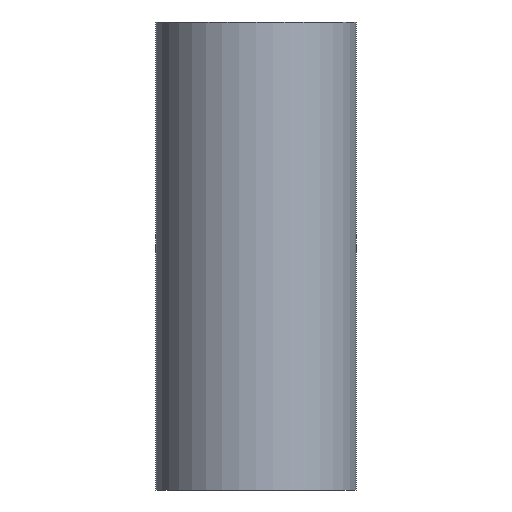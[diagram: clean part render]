
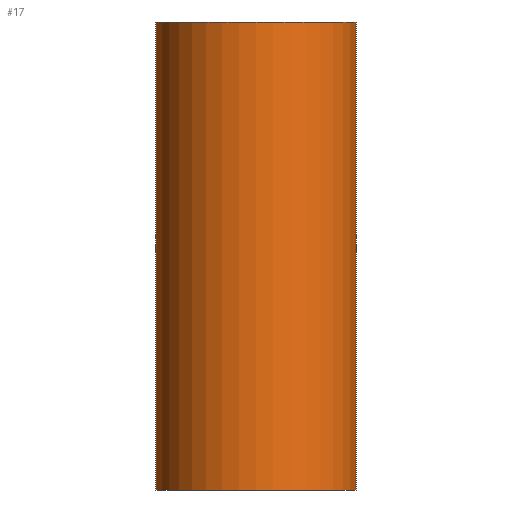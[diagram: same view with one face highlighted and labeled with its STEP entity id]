
A CAD part, front view. The second image highlights one B-rep face of the part: STEP entity #17.
In plain terms, the highlighted cylindrical face has radius 1.5 mm (diameter 3 mm), a full revolution.
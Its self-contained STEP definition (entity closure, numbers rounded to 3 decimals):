
#17 = ADVANCED_FACE('',(#18),#31,.T.);
#18 = FACE_BOUND('',#19,.T.);
#19 = EDGE_LOOP('',(#20,#54,#77,#104));
#20 = ORIENTED_EDGE('',*,*,#21,.F.);
#21 = EDGE_CURVE('',#22,#22,#24,.T.);
#22 = VERTEX_POINT('',#23);
#23 = CARTESIAN_POINT('',(-16.714,9.65,7.));
#24 = SURFACE_CURVE('',#25,(#30,#42),.PCURVE_S1.);
#25 = CIRCLE('',#26,1.5);
#26 = AXIS2_PLACEMENT_3D('',#27,#28,#29);
#27 = CARTESIAN_POINT('',(-15.415,8.9,7.));
#28 = DIRECTION('',(0.,0.,1.));
#29 = DIRECTION('',(-0.866,0.5,0.));
#30 = PCURVE('',#31,#36);
#31 = CYLINDRICAL_SURFACE('',#32,1.5);
#32 = AXIS2_PLACEMENT_3D('',#33,#34,#35);
#33 = CARTESIAN_POINT('',(-15.415,8.9,0.));
#34 = DIRECTION('',(0.,0.,1.));
#35 = DIRECTION('',(-0.866,0.5,0.));
#36 = DEFINITIONAL_REPRESENTATION('',(#37),#41);
#37 = LINE('',#38,#39);
#38 = CARTESIAN_POINT('',(0.,7.));
#39 = VECTOR('',#40,1.);
#40 = DIRECTION('',(1.,0.));
#41 = ( GEOMETRIC_REPRESENTATION_CONTEXT(2) 
PARAMETRIC_REPRESENTATION_CONTEXT() REPRESENTATION_CONTEXT('2D SPACE',''
  ) );
#42 = PCURVE('',#43,#48);
#43 = PLANE('',#44);
#44 = AXIS2_PLACEMENT_3D('',#45,#46,#47);
#45 = CARTESIAN_POINT('',(-15.415,8.9,7.));
#46 = DIRECTION('',(0.,0.,1.));
#47 = DIRECTION('',(-0.866,0.5,0.));
#48 = DEFINITIONAL_REPRESENTATION('',(#49),#53);
#49 = CIRCLE('',#50,1.5);
#50 = AXIS2_PLACEMENT_2D('',#51,#52);
#51 = CARTESIAN_POINT('',(0.,0.));
#52 = DIRECTION('',(1.,0.));
#53 = ( GEOMETRIC_REPRESENTATION_CONTEXT(2) 
PARAMETRIC_REPRESENTATION_CONTEXT() REPRESENTATION_CONTEXT('2D SPACE',''
  ) );
#54 = ORIENTED_EDGE('',*,*,#55,.F.);
#55 = EDGE_CURVE('',#56,#22,#58,.T.);
#56 = VERTEX_POINT('',#57);
#57 = CARTESIAN_POINT('',(-16.714,9.65,0.));
#58 = SEAM_CURVE('',#59,(#63,#70),.PCURVE_S1.);
#59 = LINE('',#60,#61);
#60 = CARTESIAN_POINT('',(-16.714,9.65,0.));
#61 = VECTOR('',#62,1.);
#62 = DIRECTION('',(0.,0.,1.));
#63 = PCURVE('',#31,#64);
#64 = DEFINITIONAL_REPRESENTATION('',(#65),#69);
#65 = LINE('',#66,#67);
#66 = CARTESIAN_POINT('',(6.283,-0.));
#67 = VECTOR('',#68,1.);
#68 = DIRECTION('',(0.,1.));
#69 = ( GEOMETRIC_REPRESENTATION_CONTEXT(2) 
PARAMETRIC_REPRESENTATION_CONTEXT() REPRESENTATION_CONTEXT('2D SPACE',''
  ) );
#70 = PCURVE('',#31,#71);
#71 = DEFINITIONAL_REPRESENTATION('',(#72),#76);
#72 = LINE('',#73,#74);
#73 = CARTESIAN_POINT('',(0.,-0.));
#74 = VECTOR('',#75,1.);
#75 = DIRECTION('',(0.,1.));
#76 = ( GEOMETRIC_REPRESENTATION_CONTEXT(2) 
PARAMETRIC_REPRESENTATION_CONTEXT() REPRESENTATION_CONTEXT('2D SPACE',''
  ) );
#77 = ORIENTED_EDGE('',*,*,#78,.T.);
#78 = EDGE_CURVE('',#56,#56,#79,.T.);
#79 = SURFACE_CURVE('',#80,(#85,#92),.PCURVE_S1.);
#80 = CIRCLE('',#81,1.5);
#81 = AXIS2_PLACEMENT_3D('',#82,#83,#84);
#82 = CARTESIAN_POINT('',(-15.415,8.9,0.));
#83 = DIRECTION('',(0.,0.,1.));
#84 = DIRECTION('',(-0.866,0.5,0.));
#85 = PCURVE('',#31,#86);
#86 = DEFINITIONAL_REPRESENTATION('',(#87),#91);
#87 = LINE('',#88,#89);
#88 = CARTESIAN_POINT('',(0.,0.));
#89 = VECTOR('',#90,1.);
#90 = DIRECTION('',(1.,0.));
#91 = ( GEOMETRIC_REPRESENTATION_CONTEXT(2) 
PARAMETRIC_REPRESENTATION_CONTEXT() REPRESENTATION_CONTEXT('2D SPACE',''
  ) );
#92 = PCURVE('',#93,#98);
#93 = PLANE('',#94);
#94 = AXIS2_PLACEMENT_3D('',#95,#96,#97);
#95 = CARTESIAN_POINT('',(-15.415,8.9,0.));
#96 = DIRECTION('',(0.,0.,1.));
#97 = DIRECTION('',(-0.866,0.5,0.));
#98 = DEFINITIONAL_REPRESENTATION('',(#99),#103);
#99 = CIRCLE('',#100,1.5);
#100 = AXIS2_PLACEMENT_2D('',#101,#102);
#101 = CARTESIAN_POINT('',(0.,0.));
#102 = DIRECTION('',(1.,0.));
#103 = ( GEOMETRIC_REPRESENTATION_CONTEXT(2) 
PARAMETRIC_REPRESENTATION_CONTEXT() REPRESENTATION_CONTEXT('2D SPACE',''
  ) );
#104 = ORIENTED_EDGE('',*,*,#55,.T.);
